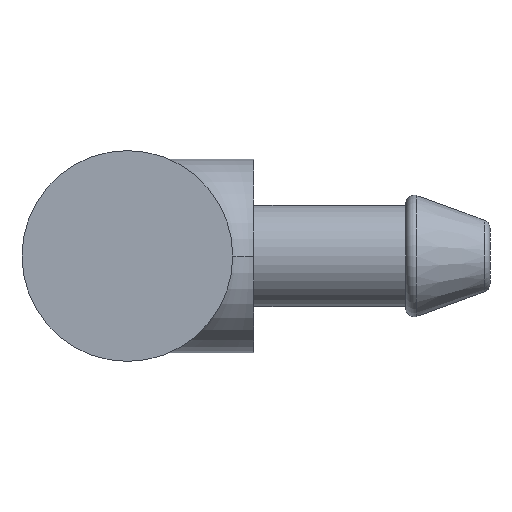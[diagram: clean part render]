
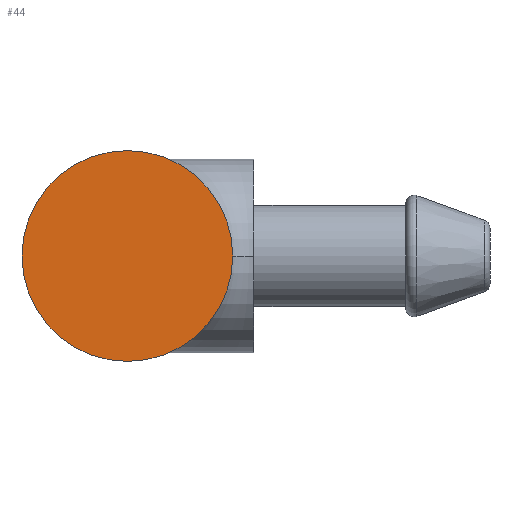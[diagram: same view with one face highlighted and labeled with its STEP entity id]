
A CAD part, left-side view. The second image highlights one B-rep face of the part: STEP entity #44.
In plain terms, the highlighted planar face has unit normal (-1, 0, 0).
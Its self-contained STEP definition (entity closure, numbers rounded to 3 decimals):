
#2 = PLANE ( 'NONE',  #215 ) ;
#44 = ADVANCED_FACE ( 'NONE', ( #228 ), #2, .F. ) ;
#49 = CARTESIAN_POINT ( 'NONE',  ( 0., 0., 0. ) ) ;
#64 = DIRECTION ( 'NONE',  ( 0., 0., -1. ) ) ;
#91 = VERTEX_POINT ( 'NONE', #115 ) ;
#113 = EDGE_CURVE ( 'NONE', #249, #91, #669, .T. ) ;
#115 = CARTESIAN_POINT ( 'NONE',  ( 0., 0., 12.5 ) ) ;
#142 = DIRECTION ( 'NONE',  ( 0., 0., 1. ) ) ;
#150 = DIRECTION ( 'NONE',  ( -1., 0., 0. ) ) ;
#152 = CARTESIAN_POINT ( 'NONE',  ( 0., 0., 0. ) ) ;
#188 = EDGE_LOOP ( 'NONE', ( #549, #732 ) ) ;
#215 = AXIS2_PLACEMENT_3D ( 'NONE', #49, #390, #64 ) ;
#228 = FACE_OUTER_BOUND ( 'NONE', #188, .T. ) ;
#249 = VERTEX_POINT ( 'NONE', #470 ) ;
#280 = CARTESIAN_POINT ( 'NONE',  ( 0., 0., 0. ) ) ;
#312 = DIRECTION ( 'NONE',  ( -1., 0., 0. ) ) ;
#390 = DIRECTION ( 'NONE',  ( 1., 0., 0. ) ) ;
#394 = AXIS2_PLACEMENT_3D ( 'NONE', #280, #312, #698 ) ;
#470 = CARTESIAN_POINT ( 'NONE',  ( 0., 0., -12.5 ) ) ;
#549 = ORIENTED_EDGE ( 'NONE', *, *, #683, .T. ) ;
#551 = CIRCLE ( 'NONE', #749, 12.5 ) ;
#669 = CIRCLE ( 'NONE', #394, 12.5 ) ;
#683 = EDGE_CURVE ( 'NONE', #91, #249, #551, .T. ) ;
#698 = DIRECTION ( 'NONE',  ( 0., 0., 1. ) ) ;
#732 = ORIENTED_EDGE ( 'NONE', *, *, #113, .T. ) ;
#749 = AXIS2_PLACEMENT_3D ( 'NONE', #152, #150, #142 ) ;
